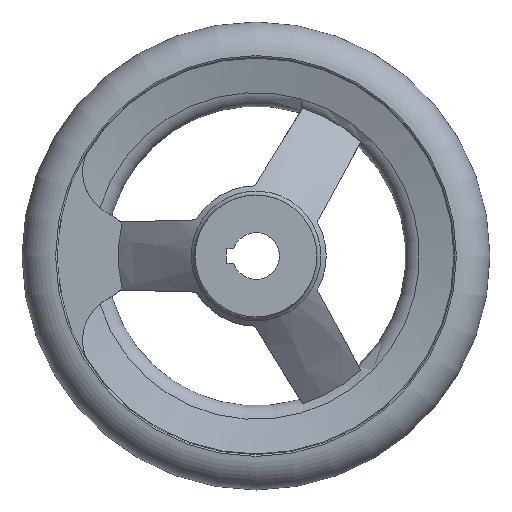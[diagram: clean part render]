
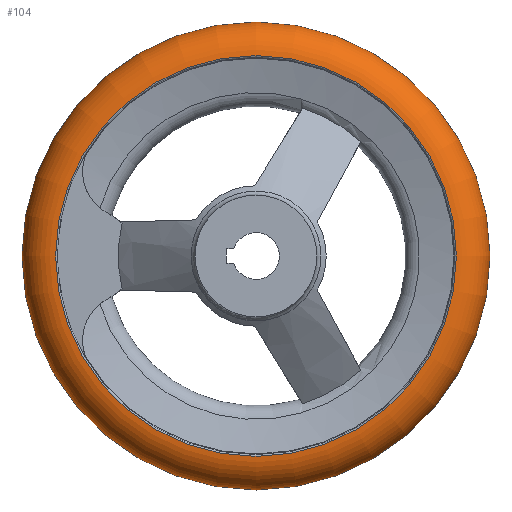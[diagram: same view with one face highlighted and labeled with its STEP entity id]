
A CAD part, left-side view. The second image highlights one B-rep face of the part: STEP entity #104.
In plain terms, the highlighted toroidal (fillet/blend) face has major radius 42.493 mm and minor radius 7.507 mm.
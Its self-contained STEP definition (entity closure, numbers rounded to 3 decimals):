
#104 = ADVANCED_FACE( '', ( #190, #191, #192 ), #193, .T. );
#190 = FACE_BOUND( '', #292, .T. );
#191 = FACE_OUTER_BOUND( '', #293, .T. );
#192 = FACE_OUTER_BOUND( '', #294, .T. );
#193 = TOROIDAL_SURFACE( '', #295, 42.493, 7.507 );
#292 = VERTEX_LOOP( '', #563 );
#293 = EDGE_LOOP( '', ( #564 ) );
#294 = EDGE_LOOP( '', ( #565 ) );
#295 = AXIS2_PLACEMENT_3D( '', #566, #567, #568 );
#563 = VERTEX_POINT( '', #757 );
#564 = ORIENTED_EDGE( '', *, *, #758, .T. );
#565 = ORIENTED_EDGE( '', *, *, #756, .F. );
#566 = CARTESIAN_POINT( '', ( 25.5, 0., 0. ) );
#567 = DIRECTION( '', ( -1., 0., 0. ) );
#568 = DIRECTION( '', ( 0., -1., 0. ) );
#756 = EDGE_CURVE( '', #933, #933, #934, .T. );
#757 = CARTESIAN_POINT( '', ( 25.5, -50., 0. ) );
#758 = EDGE_CURVE( '', #935, #935, #936, .T. );
#933 = VERTEX_POINT( '', #1485 );
#934 = CIRCLE( '', #1486, 42.813 );
#935 = VERTEX_POINT( '', #1487 );
#936 = CIRCLE( '', #1488, 42.813 );
#1485 = CARTESIAN_POINT( '', ( 18., -42.812, 0. ) );
#1486 = AXIS2_PLACEMENT_3D( '', #1640, #1641, #1642 );
#1487 = CARTESIAN_POINT( '', ( 33., -42.812, 0. ) );
#1488 = AXIS2_PLACEMENT_3D( '', #1643, #1644, #1645 );
#1640 = CARTESIAN_POINT( '', ( 18., 0., 0. ) );
#1641 = DIRECTION( '', ( -1., 0., 0. ) );
#1642 = DIRECTION( '', ( 0., -1., 0. ) );
#1643 = CARTESIAN_POINT( '', ( 33., 0., 0. ) );
#1644 = DIRECTION( '', ( -1., 0., 0. ) );
#1645 = DIRECTION( '', ( 0., -1., 0. ) );
